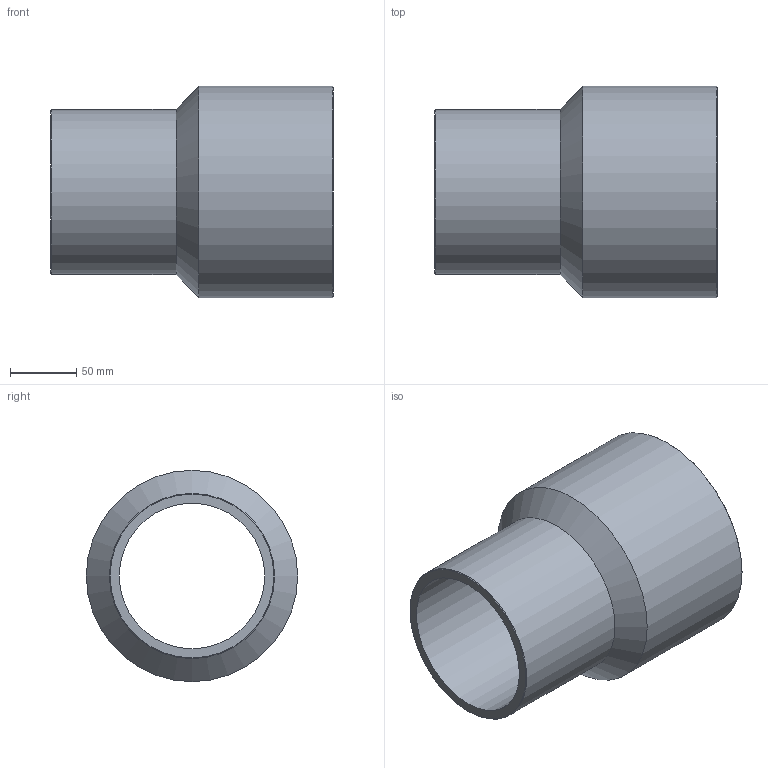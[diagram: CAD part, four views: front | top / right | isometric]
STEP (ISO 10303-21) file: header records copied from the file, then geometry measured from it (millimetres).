
FILE_DESCRIPTION(/* description */ ('Unknown'),/* implementation_level */ '2;1');
FILE_NAME(/* name */ 'RP160125B',/* time_stamp */ '2021-09-17T11:09:47+02:00',/* author */ ('Unknown'),/* organization */ ('Unknown'),/* preprocessor_version */ 'ST-DEVELOPER v16.7',/* originating_system */ 'Solid Edge',/* authorisation */ 'Unknown');
FILE_SCHEMA (('AUTOMOTIVE_DESIGN {1 0 10303 214 3 1 1}'));
Length unit declared in the file: millimetre
Products named in the file (1): RP160125B
Bounding box: 214 x 160 x 160 mm (x, y, z)
Volume: 827677.5 mm3; surface area: 192457.1 mm2
Topology: 1 solids, 1 shells, 10 faces, 19 edges, 11 vertices
Faces by surface type: cylinder 4, cone 4, plane 2
Full cylindrical faces by diameter (mm): 110.2 x1, 125 x1, 141 x1, 160 x1
Entity records: 238 total; most frequent: DIRECTION 42, CARTESIAN_POINT 31, AXIS2_PLACEMENT_3D 21, ORIENTED_EDGE 20, EDGE_LOOP 20, FACE_BOUND 20, EDGE_CURVE 10, VERTEX_POINT 10
